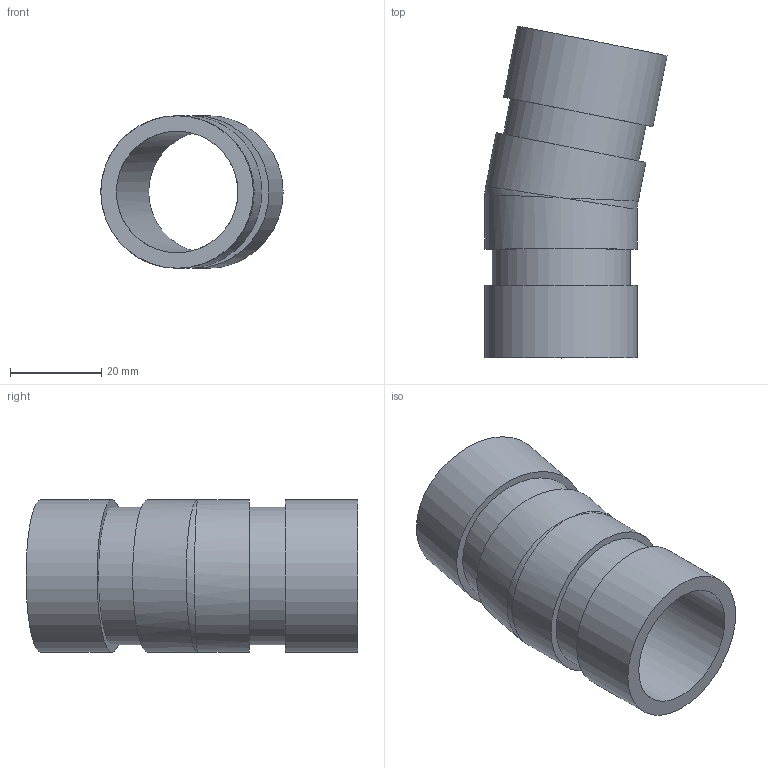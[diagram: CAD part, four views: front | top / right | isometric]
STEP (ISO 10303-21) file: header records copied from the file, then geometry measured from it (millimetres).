
FILE_DESCRIPTION(/* description */ ('VIC 11-1/4 DEG. ELBOW No 13','CAx-IF Rec.Pracs.---Representation and Presentation of Product Manufacturing Information (PMI)---4.0---2014-10-13'),/* implementation_level */ '2;1');
FILE_NAME(/* name */ 'C:\Users\kkamble\AppData\Roaming\Autodesk\ApplicationPlugins\Back Up\Victaulic_IPS_Elbow 11.25 Deg_No 13 (OGS)\Victaulic_IPS_Elbow 11.25 Deg_No 13 (OGS)_1 (25).stp',/* time_stamp */ '2020-07-24T08:08:43+06:00',/* author */ ('CONSTRUCTION PIPING SERVICES'),/* organization */ ('Victaulic'),/* preprocessor_version */ 'ST-DEVELOPER v17.2',/* originating_system */ 'Autodesk Inventor 2019',/* authorisation */ '');
FILE_SCHEMA (('AP242_MANAGED_MODEL_BASED_3D_ENGINEERING_MIM_LF { 1 0 10303 442 1 1 4 }'));
Length unit declared in the file: inch
Products named in the file (1): 013-01.0
Bounding box: 39.92 x 72.69 x 33.4 mm (x, y, z)
Volume: 19814.4 mm3; surface area: 14337.4 mm2
Topology: 1 solids, 1 shells, 16 faces, 37 edges, 23 vertices
Faces by surface type: cylinder 8, plane 6, bspline 2
Full cylindrical faces by diameter (mm): 26.645 x2, 30.226 x2, 33.401 x4
Entity records: 581 total; most frequent: CARTESIAN_POINT 151, DIRECTION 88, ORIENTED_EDGE 66, AXIS2_PLACEMENT_3D 40, EDGE_CURVE 33, VERTEX_POINT 23, EDGE_LOOP 22, STYLED_ITEM 17
